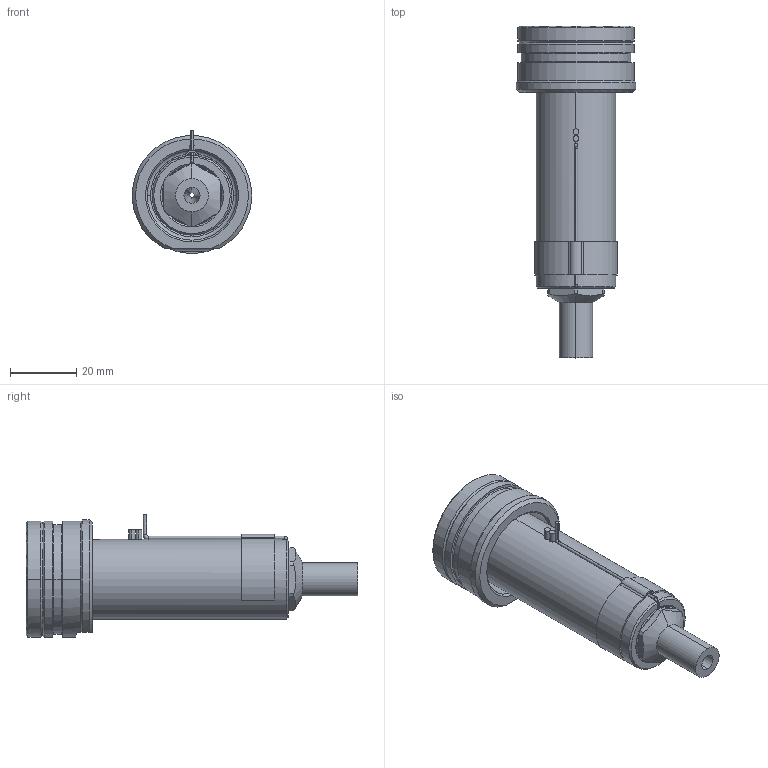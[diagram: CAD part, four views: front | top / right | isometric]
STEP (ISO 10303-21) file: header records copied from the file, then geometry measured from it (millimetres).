
FILE_DESCRIPTION((''),'2;1');
FILE_NAME('EO06_VG-ST_ESG_070_SW','2024-02-19T12:39:45',('sundharh'),(''),'CREO PARAMETRIC BY PTC INC, 2023154','CREO PARAMETRIC BY PTC INC, 2023154','');
FILE_SCHEMA(('CONFIG_CONTROL_DESIGN'));
Length unit declared in the file: millimetre
Products named in the file (1): EO06_VG-ST_ESG_070_SW
Bounding box: 35.93 x 100 x 37 mm (x, y, z)
Volume: 43942.6 mm3; surface area: 13869.5 mm2
Topology: 2 solids, 2 shells, 176 faces, 448 edges, 273 vertices
Faces by surface type: cylinder 68, plane 41, cone 34, torus 21, bspline 10, sphere 2
Entity records: 6070 total; most frequent: CARTESIAN_POINT 1752, DIRECTION 954, ORIENTED_EDGE 884, EDGE_CURVE 442, AXIS2_PLACEMENT_3D 399, VERTEX_POINT 273, CIRCLE 233, EDGE_LOOP 189
